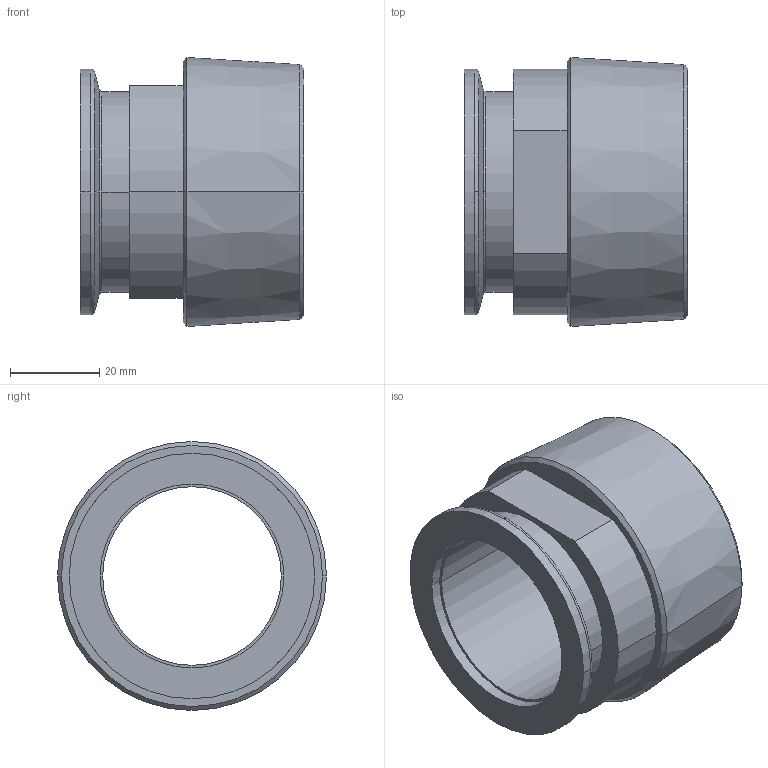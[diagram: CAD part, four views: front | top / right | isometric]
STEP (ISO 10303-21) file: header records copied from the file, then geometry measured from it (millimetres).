
FILE_DESCRIPTION((''),'2;1');
FILE_NAME('W:\211-564.stp','2003-10-13T12:51:52',('KAA'),(''),'Autodesk Inventor (R) 6.0','Autodesk Inventor (R) 6.0','');
FILE_SCHEMA(('CONFIG_CONTROL_DESIGN'));
Length unit declared in the file: millimetre
Products named in the file (1): 211-564
Bounding box: 50 x 60.23 x 60.23 mm (x, y, z)
Volume: 57007.4 mm3; surface area: 19021.3 mm2
Topology: 1 solids, 1 shells, 31 faces, 74 edges, 48 vertices
Faces by surface type: cylinder 12, cone 8, plane 7, torus 2, bspline 2
Entity records: 1103 total; most frequent: CARTESIAN_POINT 242, DIRECTION 182, ORIENTED_EDGE 148, AXIS2_PLACEMENT_3D 78, EDGE_CURVE 74, VERTEX_POINT 48, CIRCLE 48, EDGE_LOOP 36
